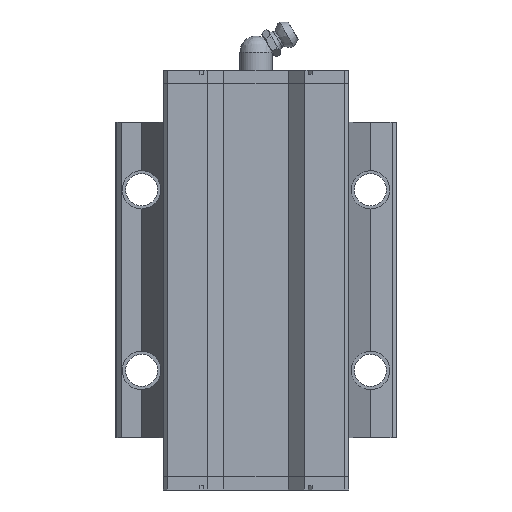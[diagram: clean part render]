
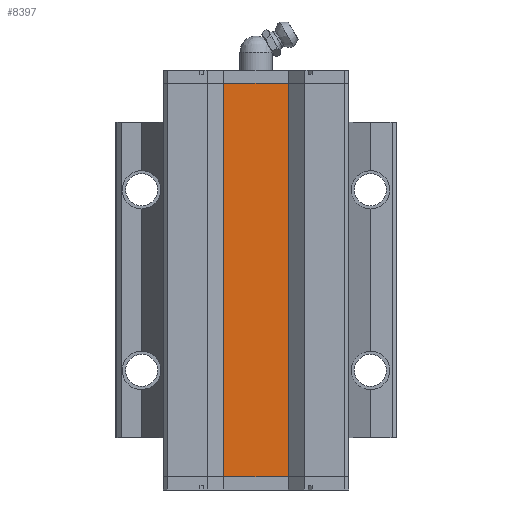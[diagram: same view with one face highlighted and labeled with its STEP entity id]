
A CAD part, front view. The second image highlights one B-rep face of the part: STEP entity #8397.
In plain terms, the highlighted planar face has unit normal (0, -1, 0).
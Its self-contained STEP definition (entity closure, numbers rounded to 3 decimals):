
#1114 = ORIENTED_EDGE ( 'NONE', *, *, #5942, .F. ) ;
#1190 = CARTESIAN_POINT ( 'NONE',  ( 8.056, 16.4, 49.05 ) ) ;
#1340 = VERTEX_POINT ( 'NONE', #4809 ) ;
#2525 = EDGE_CURVE ( 'NONE', #6917, #2573, #2596, .T. ) ;
#2573 = VERTEX_POINT ( 'NONE', #10829 ) ;
#2596 = LINE ( 'NONE', #11785, #4928 ) ;
#3196 = VECTOR ( 'NONE', #6143, 1000. ) ;
#3234 = PLANE ( 'NONE',  #12523 ) ;
#3274 = DIRECTION ( 'NONE',  ( 1., 0., 0. ) ) ;
#3371 = DIRECTION ( 'NONE',  ( 1., 0., 0. ) ) ;
#3761 = LINE ( 'NONE', #6740, #8422 ) ;
#3982 = CARTESIAN_POINT ( 'NONE',  ( -8.056, 16.4, -49.05 ) ) ;
#4809 = CARTESIAN_POINT ( 'NONE',  ( 8.056, 16.4, -49.05 ) ) ;
#4888 = LINE ( 'NONE', #11271, #7530 ) ;
#4928 = VECTOR ( 'NONE', #5869, 1000. ) ;
#5141 = CARTESIAN_POINT ( 'NONE',  ( 8.056, 16.4, 49.05 ) ) ;
#5720 = EDGE_LOOP ( 'NONE', ( #7913, #1114, #12856, #11999 ) ) ;
#5869 = DIRECTION ( 'NONE',  ( 0., 0., 1. ) ) ;
#5942 = EDGE_CURVE ( 'NONE', #2573, #8353, #11114, .T. ) ;
#6143 = DIRECTION ( 'NONE',  ( 1., 0., 0. ) ) ;
#6740 = CARTESIAN_POINT ( 'NONE',  ( 8.056, 16.4, -49.05 ) ) ;
#6917 = VERTEX_POINT ( 'NONE', #3982 ) ;
#7220 = CARTESIAN_POINT ( 'NONE',  ( 8.056, 16.4, -49.05 ) ) ;
#7305 = EDGE_CURVE ( 'NONE', #6917, #1340, #4888, .T. ) ;
#7530 = VECTOR ( 'NONE', #3371, 1000. ) ;
#7913 = ORIENTED_EDGE ( 'NONE', *, *, #8663, .F. ) ;
#8353 = VERTEX_POINT ( 'NONE', #1190 ) ;
#8397 = ADVANCED_FACE ( 'NONE', ( #8874 ), #3234, .F. ) ;
#8422 = VECTOR ( 'NONE', #12695, 1000. ) ;
#8663 = EDGE_CURVE ( 'NONE', #8353, #1340, #3761, .T. ) ;
#8874 = FACE_OUTER_BOUND ( 'NONE', #5720, .T. ) ;
#9203 = DIRECTION ( 'NONE',  ( 0., 1., 0. ) ) ;
#10829 = CARTESIAN_POINT ( 'NONE',  ( -8.056, 16.4, 49.05 ) ) ;
#11114 = LINE ( 'NONE', #5141, #3196 ) ;
#11271 = CARTESIAN_POINT ( 'NONE',  ( 23.152, 16.4, -49.05 ) ) ;
#11785 = CARTESIAN_POINT ( 'NONE',  ( -8.056, 16.4, -49.05 ) ) ;
#11999 = ORIENTED_EDGE ( 'NONE', *, *, #7305, .T. ) ;
#12523 = AXIS2_PLACEMENT_3D ( 'NONE', #7220, #9203, #3274 ) ;
#12695 = DIRECTION ( 'NONE',  ( 0., 0., -1. ) ) ;
#12856 = ORIENTED_EDGE ( 'NONE', *, *, #2525, .F. ) ;
